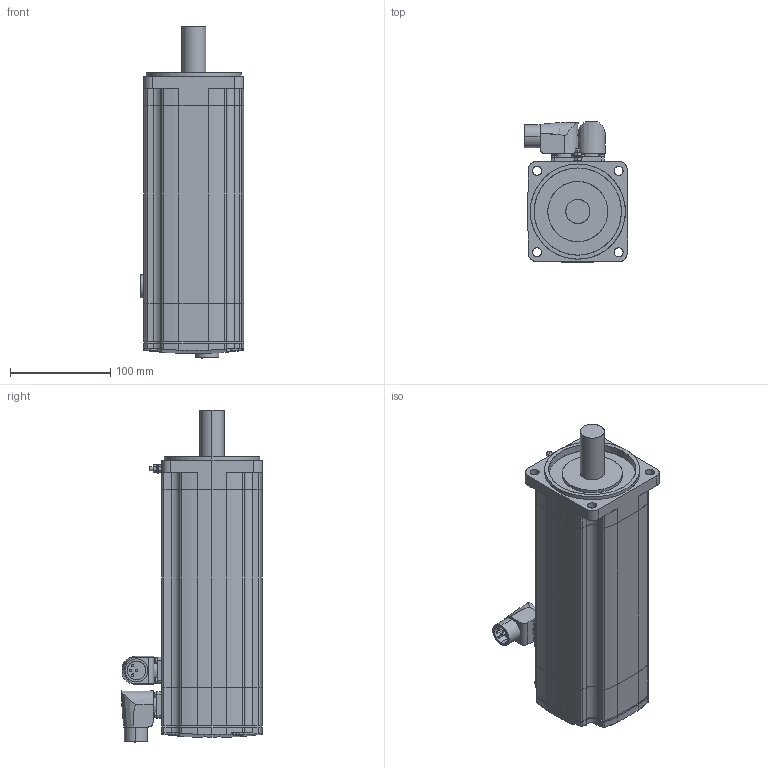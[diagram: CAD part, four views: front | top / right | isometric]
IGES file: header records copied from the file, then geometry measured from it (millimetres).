
Start section: SolidWorks IGES file using analytic representation for surfaces
Global section: file name: C:\PDM\SW-SAP\AA-IGES\SH31004x0xA2100.IGS; native system: SolidWorks 2010; preprocessor: SolidWorks 2010; author: SESA21951; date: 131129.101145; units: millimetre
Bounding box: 103.65 x 139.9 x 331.45 mm (x, y, z)
Surface area: 215404.1 mm2 (no closed solid volume)
Topology: 0 solids, 0 shells, 468 faces, 6770 edges, 6770 vertices
Faces by surface type: revolution 245, bspline 223
